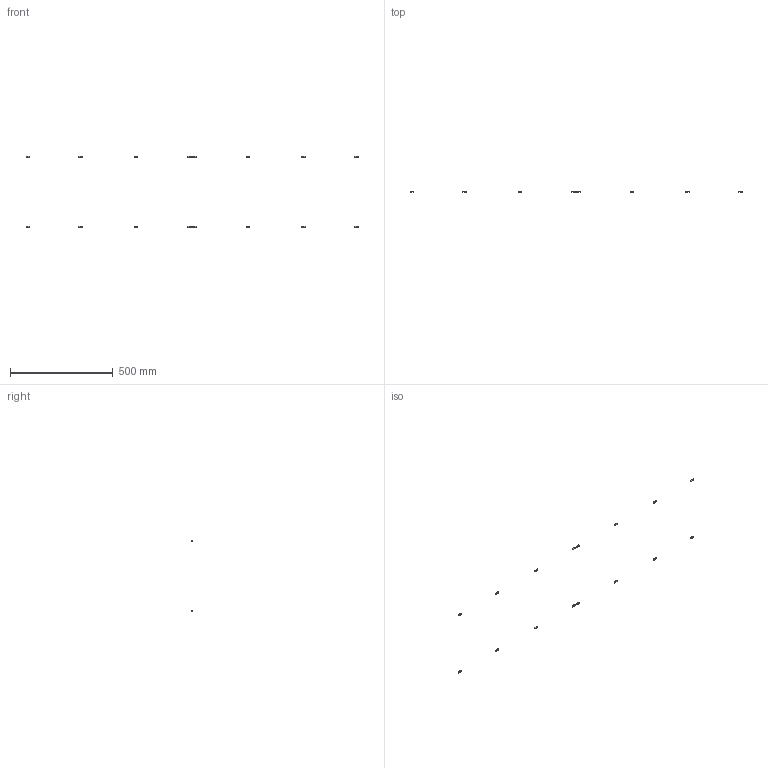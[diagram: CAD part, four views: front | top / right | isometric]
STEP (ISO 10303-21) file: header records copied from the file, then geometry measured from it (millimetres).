
FILE_DESCRIPTION(/* description */ (''),/* implementation_level */ '2;1');
FILE_NAME(/* name */ '14.frame-panels#14.4#HNTPZ5-5',/* time_stamp */ '2014-12-01T20:20:19+01:00',/* author */ (''),/* organization */ (''),/* preprocessor_version */ 'ST-DEVELOPER v14',/* originating_system */ '',/* authorisation */ '');
FILE_SCHEMA (('AUTOMOTIVE_DESIGN'));
Length unit declared in the file: millimetre
Products named in the file (2): Document; nut tslot, post, M5
Assembly tree (8 placements, depth 2):
  Document
    nut tslot, post, M5  x8
Bounding box: 1612 x 3.8 x 348.3 mm (x, y, z)
Volume: 5040.2 mm3; surface area: 6712.1 mm2
Topology: 16 solids, 16 shells, 208 faces, 576 edges, 384 vertices
Faces by surface type: plane 176, bspline 32
Entity records: 8673 total; most frequent: CARTESIAN_POINT 4115, B_SPLINE_CURVE_WITH_KNOTS 900, ORIENTED_EDGE 648, PCURVE 648, DEFINITIONAL_REPRESENTATION 648, SURFACE_CURVE 324, EDGE_CURVE 324, VERTEX_POINT 216
